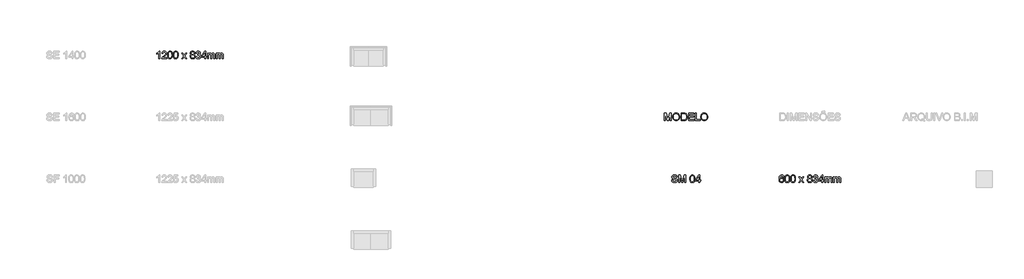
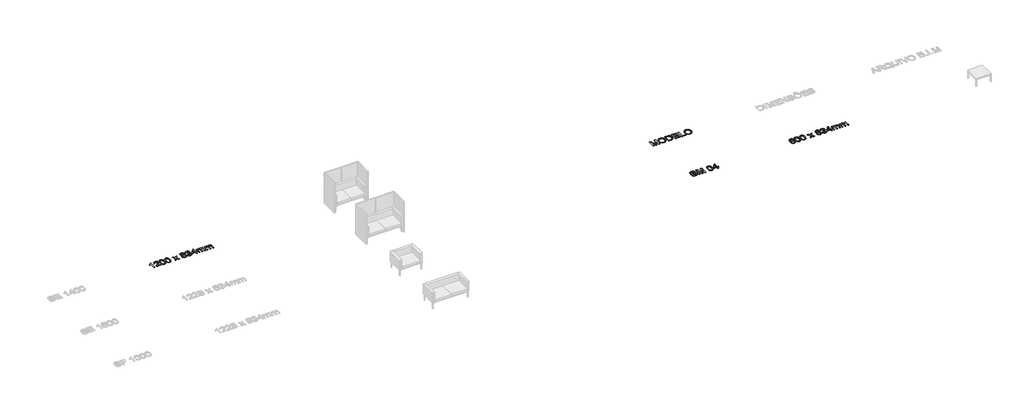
# One storey, part 59 of 67: 4 proxies.
"""IFC4 building model written with IfcOpenShell, lengths in millimetres."""

from ifc_helpers import new_model, si_unit, origin, origin_with_axes, place, context, project, spatial, polyline, outline, extrude, element, save

model = new_model("IFC4")

# Units and contexts
model_context = context("Model", 3, world=origin())
ifc_project = project(units=[si_unit("LENGTHUNIT", "METRE", prefix="MILLI")], contexts=[model_context])

# Site, building, storey
site = spatial("IfcSite", under=ifc_project)
building = spatial("IfcBuilding", under=site)
storey = spatial("IfcBuildingStorey", under=building, Name="Marelli - Linha COLAB - Planta Baixa", Elevation=0.0)

# Proxies
placement = place(None, origin())
element("IfcBuildingElementProxy", 1, Name="300mm Arial", ObjectType="300mm Arial", at=placement, inside=storey, context=model_context, shape_type="SweptSolid", body=[
    extrude(outline(polyline([(-317.6891758, -1280.5663201), (-355.3602921, -1280.5663201), (-355.3602921, -1045.7104543), (-391.0448457, -1071.1311002), (-430.7025247, -1090.1505994), (-430.7025247, -1054.5396222), (-401.1156153, -1038.4447849), (-375.4834373, -1019.2965271), (-355.2775187, -998.9342587), (-341.9693875, -979.1973896), (-317.6891758, -979.1973896), (-317.6891758, -1280.5663201)])), origin_with_axes(), (0.0, 0.0, 1.0), 10.0),
    extrude(outline(polyline([(-35.1558035, -1242.8952038), (-35.1558035, -1280.5663201), (-232.9291641, -1280.5663201), (-228.8824622, -1254.5938512), (-219.5934418, -1234.2959621), (-206.0002021, -1214.6050783), (-186.3369094, -1193.9944896), (-158.8377303, -1170.9374855), (-118.1867698, -1134.8298677), (-93.7961935, -1108.1768171), (-81.6009054, -1086.5453558), (-77.5358094, -1065.5025057), (-81.3709792, -1046.6393564), (-92.8764886, -1030.9583863), (-110.5624155, -1020.390976), (-132.9388378, -1016.8685059), (-156.4373003, -1020.3082026), (-174.6934443, -1030.6272925), (-186.4748652, -1047.0164354), (-190.5491583, -1068.6662908), (-228.2202746, -1063.9574013), (-219.0876041, -1027.5186897), (-210.5412455, -1012.9827524), (-199.341538, -1000.9024273), (-185.745999, -991.4064733), (-170.0121459, -984.623649), (-132.1294974, -979.1973896), (-111.9396737, -980.7057058), (-93.9709375, -985.2306543), (-78.2232888, -992.7722352), (-64.6967277, -1003.3304485), (-53.8327126, -1016.1235449), (-46.0727017, -1030.3697751), (-41.4166952, -1046.0691393), (-39.8646931, -1063.2216373), (-41.5385561, -1081.238658), (-46.5601454, -1098.942979), (-55.4720867, -1116.9508027), (-68.8170061, -1135.8783314), (-90.0897824, -1158.4754829), (-122.7852948, -1187.4921753), (-166.1217938, -1223.7285518), (-183.117942, -1242.8952038), (-35.1558035, -1242.8952038)])), origin_with_axes(), (0.0, 0.0, 1.0), 10.0),
    extrude(outline(polyline([(2.5153128, -1132.309876), (5.2836248, -1084.0713494), (13.5885608, -1045.6000897), (27.3473475, -1016.3074859), (46.4772112, -995.6049266), (71.1161078, -983.2992739), (101.4019931, -979.1973896), (124.615347, -981.6254108), (145.4006797, -988.9094743), (162.783104, -1000.7644716), (175.7877325, -1016.9052941), (185.6101818, -1037.1939862), (193.4460683, -1061.4925919), (198.5780221, -1092.3486943), (200.2886734, -1132.309876), (197.5479525, -1180.2724911), (189.3257899, -1218.6517803), (175.6497768, -1247.9719753), (156.5475042, -1268.757308), (131.8534252, -1281.1457342), (101.4019931, -1285.2752096), (80.6534486, -1283.4817849), (62.2593488, -1278.1015107), (46.2196938, -1269.1343871), (32.5344836, -1256.580414), (19.4010964, -1233.8866934), (10.0201055, -1205.6103636), (4.391511, -1171.7514244), (2.5153128, -1132.309876)]), holes=[polyline([(40.1864291, -1132.2362996), (44.601013, -1191.492892), (50.119243, -1211.7608907), (57.8447649, -1225.788691), (77.5632398, -1242.1502427), (101.4019931, -1247.6040933), (125.2407464, -1242.1318486), (144.9592213, -1225.7151146), (152.6847432, -1211.6643216), (158.2029731, -1191.4009215), (162.6175571, -1132.2362996), (158.3501259, -1074.3132795), (153.015837, -1054.1119594), (145.5478325, -1039.750766), (125.8661458, -1022.589071), (100.9605347, -1016.8685059), (77.3792988, -1021.9084893), (58.4333761, -1037.0284393), (50.4503368, -1052.6634241), (44.7481658, -1073.7430624), (40.1864291, -1132.2362996)])]), origin_with_axes(), (0.0, 0.0, 1.0), 10.0),
    extrude(outline(polyline([(233.2509002, -1132.309876), (236.0192122, -1084.0713494), (244.3241482, -1045.6000897), (258.0829348, -1016.3074859), (277.2127986, -995.6049266), (301.8516952, -983.2992739), (332.1375805, -979.1973896), (355.3509344, -981.6254108), (376.1362671, -988.9094743), (393.5186914, -1000.7644716), (406.5233199, -1016.9052941), (416.3457692, -1037.1939862), (424.1816557, -1061.4925919), (429.3136095, -1092.3486943), (431.0242608, -1132.309876), (428.2835399, -1180.2724911), (420.0613773, -1218.6517803), (406.3853641, -1247.9719753), (387.2830915, -1268.757308), (362.5890126, -1281.1457342), (332.1375805, -1285.2752096), (311.3890359, -1283.4817849), (292.9949362, -1278.1015107), (276.9552812, -1269.1343871), (263.270071, -1256.580414), (250.1366837, -1233.8866934), (240.7556929, -1205.6103636), (235.1270983, -1171.7514244), (233.2509002, -1132.309876)]), holes=[polyline([(270.9220165, -1132.2362996), (275.3366004, -1191.492892), (280.8548303, -1211.7608907), (288.5803522, -1225.788691), (308.2988272, -1242.1502427), (332.1375805, -1247.6040933), (355.9763338, -1242.1318486), (375.6948087, -1225.7151146), (383.4203306, -1211.6643216), (388.9385605, -1191.4009215), (393.3531445, -1132.2362996), (389.0857133, -1074.3132795), (383.7514244, -1054.1119594), (376.2834199, -1039.750766), (356.6017331, -1022.589071), (331.6961221, -1016.8685059), (308.1148862, -1021.9084893), (289.1689634, -1037.0284393), (281.1859241, -1052.6634241), (275.4837532, -1073.7430624), (270.9220165, -1132.2362996)])]), origin_with_axes(), (0.0, 0.0, 1.0), 10.0),
    extrude(outline(polyline([(567.5820574, -1280.5663201), (648.0746379, -1169.3188047), (572.2909469, -1059.2485118), (617.6140087, -1059.2485118), (654.181479, -1112.2235191), (671.2512036, -1137.2394947), (686.0400598, -1116.7852558), (727.6843017, -1059.2485118), (773.0073635, -1059.2485118), (693.3976997, -1169.3188047), (770.0643075, -1280.5663201), (724.7412457, -1280.5663201), (678.6088435, -1213.6853733), (670.1475576, -1201.4716911), (612.9051192, -1280.5663201), (567.5820574, -1280.5663201)])), origin_with_axes(), (0.0, 0.0, 1.0), 10.0),
    extrude(outline(polyline([(966.2189874, -1114.5779638), (946.049857, -1104.64515), (931.8955972, -1091.180669), (923.5354789, -1074.4604323), (920.7487727, -1054.7603514), (922.266286, -1039.3966796), (926.8188257, -1025.3113977), (934.4063918, -1012.5045058), (945.0289844, -1000.9760037), (958.1761672, -991.4478601), (973.337504, -984.6420431), (1009.7026392, -979.1973896), (1046.2885036, -984.7708018), (1061.6153872, -991.7375671), (1074.9649051, -1001.4910385), (1085.7806358, -1013.2448683), (1093.5061577, -1026.2127086), (1098.1414708, -1040.3945595), (1099.6865752, -1055.790421), (1096.9366573, -1074.8559054), (1088.6869035, -1091.2910335), (1074.8453435, -1104.6727411), (1055.3200066, -1114.5779638), (1078.5057693, -1126.5249316), (1095.3823559, -1144.1188881), (1105.6738547, -1166.5137045), (1109.1043543, -1192.8632524), (1107.4029001, -1211.6528253), (1102.2985374, -1228.8788997), (1093.7912662, -1244.5414757), (1081.8810866, -1258.6405532), (1067.193398, -1270.2932154), (1050.3535997, -1278.6165455), (1031.3616916, -1283.6105436), (1010.217674, -1285.2752096), (989.0736563, -1283.6036458), (970.0817483, -1278.5889543), (953.24195, -1270.2311353), (938.5542613, -1258.5301886), (926.6440817, -1244.3322428), (918.1368106, -1228.4834266), (913.0324479, -1210.9837399), (911.3309937, -1191.8331828), (914.899449, -1164.4627624), (925.6048151, -1141.9483843), (942.8952689, -1125.0626007), (966.2189874, -1114.5779638)]), holes=[polyline([(949.00211, -1190.5088076), (955.2928921, -1218.8725095), (964.0024983, -1231.0402065), (977.5497528, -1240.0993006), (993.7733488, -1245.7278951), (1010.5119796, -1247.6040933), (1036.1533546, -1243.6585589), (1055.393583, -1231.8219557), (1067.4233242, -1213.8969055), (1071.433238, -1191.68603), (1067.2945655, -1169.0980755), (1054.8785482, -1150.7775522), (1035.1968614, -1138.6374463), (1009.2611808, -1134.5907444), (983.9784907, -1138.582264), (964.9314004, -1150.556823), (952.9844326, -1168.5278584), (949.00211, -1190.5088076)]), polyline([(958.4198891, -1055.8639974), (961.7584182, -1072.3083226), (971.7740055, -1085.4417098), (988.1723454, -1094.0501485), (1010.6591324, -1096.9196281), (1032.6216875, -1094.0685426), (1048.7717071, -1085.5152862), (1058.7045209, -1072.8233574), (1062.0154589, -1057.5562546), (1058.5941563, -1041.7097376), (1048.3302487, -1028.6039416), (1031.9594999, -1019.8023648), (1010.217674, -1016.8685059), (988.3378923, -1019.7379855), (971.9947347, -1028.3464242), (961.8136005, -1040.9647766), (958.4198891, -1055.8639974)])]), origin_with_axes(), (0.0, 0.0, 1.0), 10.0),
    extrude(outline(polyline([(1142.066581, -1200.5151979), (1179.7376974, -1195.8063084), (1188.1713921, -1219.4795148), (1200.5230301, -1235.4639875), (1217.3996166, -1244.5690668), (1239.408157, -1247.6040933), (1265.233473, -1243.4286327), (1285.1726772, -1230.9022507), (1297.9197883, -1212.2138454), (1302.1688253, -1189.5523145), (1297.9565765, -1168.0404148), (1285.31983, -1150.5936112), (1266.1899662, -1139.0329195), (1242.4983657, -1135.1793556), (1216.0844385, -1139.2996339), (1220.2782932, -1101.6285176), (1226.3115579, -1102.069976), (1248.8811183, -1099.3660433), (1269.0594458, -1091.2542454), (1283.296479, -1077.5322469), (1288.0421567, -1057.997713), (1284.6024601, -1041.7281317), (1274.2833701, -1028.5303652), (1258.5380207, -1019.7839707), (1238.8195458, -1016.8685059), (1219.0642826, -1019.8115619), (1202.9142631, -1028.6407298), (1191.1236451, -1043.3560096), (1184.4465869, -1063.9574013), (1146.7754706, -1059.2485118), (1157.8671127, -1025.4217623), (1177.6039818, -1000.1666633), (1204.6065202, -984.4397081), (1237.4951706, -979.1973896), (1261.177574, -981.7817606), (1282.928597, -989.5348737), (1301.2675145, -1001.76695), (1314.7136014, -1017.7882109), (1322.9633551, -1036.24669), (1325.713273, -1055.790421), (1323.1013109, -1074.0005798), (1315.2654244, -1090.5184814), (1302.3159781, -1104.5899677), (1284.3633368, -1115.4608806), (1307.9445727, -1124.9890243), (1325.4189674, -1141.2126203), (1336.2346981, -1163.2487518), (1339.8399417, -1190.2145021), (1338.0373199, -1209.3259717), (1332.6294545, -1226.9291252), (1323.6163457, -1243.0239625), (1310.9979932, -1257.6104836), (1295.6251244, -1269.7138012), (1278.3484662, -1278.3590281), (1259.1680186, -1283.5461642), (1238.0837818, -1285.2752096), (1219.0274944, -1283.7990831), (1201.6634643, -1279.3707036), (1185.9916913, -1271.9900711), (1172.0121755, -1261.6571855), (1160.2905354, -1248.9790523), (1151.3923896, -1234.5626766), (1145.3177382, -1218.4080585), (1142.066581, -1200.5151979)])), origin_with_axes(), (0.0, 0.0, 1.0), 10.0),
    extrude(outline(polyline([(1495.2332964, -1280.5663201), (1495.2332964, -1209.932977), (1358.6754998, -1209.932977), (1358.6754998, -1172.2618607), (1504.6510755, -983.9062792), (1532.9044127, -983.9062792), (1532.9044127, -1172.2618607), (1570.575529, -1172.2618607), (1570.575529, -1209.932977), (1532.9044127, -1209.932977), (1532.9044127, -1280.5663201), (1495.2332964, -1280.5663201)]), holes=[polyline([(1495.2332964, -1172.2618607), (1495.2332964, -1055.8639974), (1405.0286312, -1172.2618607), (1495.2332964, -1172.2618607)])]), origin_with_axes(), (0.0, 0.0, 1.0), 10.0),
    extrude(outline(polyline([(1612.9555349, -1280.5663201), (1612.9555349, -1059.2485118), (1650.6266512, -1059.2485118), (1650.6266512, -1095.6688293), (1661.9574166, -1078.9393956), (1676.5255436, -1065.8335995), (1693.8343915, -1057.3631165), (1713.3873196, -1054.5396222), (1734.3381992, -1057.4182988), (1751.1320123, -1066.0543287), (1763.6767883, -1079.8774946), (1771.8805568, -1098.3175797), (1785.6117523, -1079.1647233), (1801.2743282, -1065.4841116), (1818.8682846, -1057.2757446), (1838.3936215, -1054.5396222), (1866.7113381, -1059.0921619), (1887.6530207, -1072.749781), (1900.5932699, -1095.8803614), (1904.9066862, -1128.8517853), (1904.9066862, -1280.5663201), (1867.2355699, -1280.5663201), (1867.2355699, -1145.038593), (1863.740691, -1113.5846825), (1858.8294664, -1104.9118644), (1851.0855504, -1098.0968505), (1841.1251453, -1093.6822665), (1829.5644536, -1092.2107385), (1809.1562, -1095.981529), (1792.5187367, -1107.2939003), (1781.4546857, -1126.9204048), (1777.7666687, -1155.6335945), (1777.7666687, -1280.5663201), (1740.0955524, -1280.5663201), (1740.0955524, -1140.8447383), (1737.9158516, -1119.5443708), (1731.3767491, -1104.3508444), (1719.8712397, -1095.245765), (1702.7923181, -1092.2107385), (1688.2793734, -1094.2340895), (1674.9068629, -1100.3041424), (1663.870403, -1110.2737445), (1656.3656103, -1123.9957429), (1652.061391, -1143.0336362), (1650.6266512, -1168.9509227), (1650.6266512, -1280.5663201), (1612.9555349, -1280.5663201)])), origin_with_axes(), (0.0, 0.0, 1.0), 10.0),
    extrude(outline(polyline([(1961.4133607, -1280.5663201), (1961.4133607, -1059.2485118), (1999.084477, -1059.2485118), (1999.084477, -1095.6688293), (2010.4152425, -1078.9393956), (2024.9833695, -1065.8335995), (2042.2922173, -1057.3631165), (2061.8451454, -1054.5396222), (2082.796025, -1057.4182988), (2099.5898381, -1066.0543287), (2112.1346141, -1079.8774946), (2120.3383826, -1098.3175797), (2134.0695781, -1079.1647233), (2149.732154, -1065.4841116), (2167.3261105, -1057.2757446), (2186.8514474, -1054.5396222), (2215.1691639, -1059.0921619), (2236.1108465, -1072.749781), (2249.0510957, -1095.8803614), (2253.3645121, -1128.8517853), (2253.3645121, -1280.5663201), (2215.6933958, -1280.5663201), (2215.6933958, -1145.038593), (2212.1985168, -1113.5846825), (2207.2872922, -1104.9118644), (2199.5433762, -1098.0968505), (2189.5829712, -1093.6822665), (2178.0222795, -1092.2107385), (2157.6140258, -1095.981529), (2140.9765626, -1107.2939003), (2129.9125115, -1126.9204048), (2126.2244945, -1155.6335945), (2126.2244945, -1280.5663201), (2088.5533782, -1280.5663201), (2088.5533782, -1140.8447383), (2086.3736774, -1119.5443708), (2079.834575, -1104.3508444), (2068.3290656, -1095.245765), (2051.2501439, -1092.2107385), (2036.7371992, -1094.2340895), (2023.3646887, -1100.3041424), (2012.3282288, -1110.2737445), (2004.8234361, -1123.9957429), (2000.5192168, -1143.0336362), (1999.084477, -1168.9509227), (1999.084477, -1280.5663201), (1961.4133607, -1280.5663201)])), origin_with_axes(), (0.0, 0.0, 1.0), 10.0),
])
element("IfcBuildingElementProxy", 2, Name="300mm Arial", ObjectType="300mm Arial", at=placement, inside=storey, context=model_context, shape_type="SweptSolid", body=[
    extrude(outline(polyline([(24849.4764028, -6059.2485118), (24811.8052865, -6063.9574013), (24805.7352336, -6045.2873901), (24797.5314651, -6032.5402789), (24780.4433464, -6020.7864492), (24759.7867724, -6016.8685059), (24742.2755894, -6019.1493743), (24725.794476, -6025.9919794), (24711.6402163, -6040.4037566), (24700.0795246, -6060.2417932), (24692.2712292, -6088.3019923), (24689.3741585, -6127.3802573), (24704.4849114, -6109.7495127), (24722.5939027, -6097.3242983), (24742.6894566, -6089.9574613), (24763.7598979, -6087.501849), (24781.8596921, -6089.1803106), (24798.5615347, -6094.2156954), (24813.8654257, -6102.6080034), (24827.7713651, -6114.3572346), (24839.3274583, -6128.7644133), (24847.5818105, -6145.1305635), (24852.5344219, -6163.4556854), (24854.1852923, -6183.7397789), (24851.0766895, -6210.7147262), (24841.7508809, -6235.7215049), (24826.9804188, -6256.9299019), (24807.5378553, -6272.5097044), (24784.3061073, -6282.0838333), (24758.1680916, -6285.2752096), (24735.711195, -6283.1598881), (24715.4294008, -6276.8139237), (24697.3227089, -6266.2373164), (24681.3911192, -6251.4300661), (24668.4025855, -6231.7667734), (24659.1250614, -6206.622039), (24653.558547, -6175.9958629), (24651.7030422, -6139.8882451), (24653.7631814, -6099.4074301), (24659.9435989, -6064.8587122), (24670.2442947, -6036.2420915), (24684.665269, -6013.557568), (24700.2956552, -5998.5249899), (24718.418442, -5987.7874342), (24739.0336293, -5981.3449008), (24762.1412171, -5979.1973896), (24795.1954144, -5984.5132844), (24821.664524, -6000.4609689), (24840.2057765, -6025.7896443), (24849.4764028, -6059.2485118)]), holes=[polyline([(24689.3741585, -6183.1511677), (24691.5538593, -6199.8438133), (24698.0929618, -6215.7823007), (24708.2465048, -6229.485905), (24721.2695275, -6239.4739012), (24736.9872857, -6245.5715453), (24755.2250356, -6247.6040933), (24780.0846615, -6243.3918445), (24799.6283924, -6230.7550979), (24812.2927301, -6210.8894702), (24816.514176, -6184.9905777), (24812.3479124, -6160.1309519), (24799.8491216, -6141.1758321), (24779.9742969, -6129.173682), (24753.6799313, -6125.1729653), (24728.8570936, -6129.173682), (24708.099352, -6141.1758321), (24694.0554569, -6159.6710994), (24689.3741585, -6183.1511677)])]), origin_with_axes(), (0.0, 0.0, 1.0), 10.0),
    extrude(outline(polyline([(24887.1475191, -6132.309876), (24889.9158311, -6084.0713494), (24898.2207672, -6045.6000897), (24911.9795538, -6016.3074859), (24931.1094175, -5995.6049266), (24955.7483142, -5983.2992739), (24986.0341994, -5979.1973896), (25009.2475533, -5981.6254108), (25030.032886, -5988.9094743), (25047.4153103, -6000.7644716), (25060.4199388, -6016.9052941), (25070.2423881, -6037.1939862), (25078.0782746, -6061.4925919), (25083.2102284, -6092.3486943), (25084.9208797, -6132.309876), (25082.1801588, -6180.2724911), (25073.9579963, -6218.6517803), (25060.2819831, -6247.9719753), (25041.1797105, -6268.757308), (25016.4856316, -6281.1457342), (24986.0341994, -6285.2752096), (24965.2856549, -6283.4817849), (24946.8915551, -6278.1015107), (24930.8519001, -6269.1343871), (24917.1666899, -6256.580414), (24904.0333027, -6233.8866934), (24894.6523118, -6205.6103636), (24889.0237173, -6171.7514244), (24887.1475191, -6132.309876)]), holes=[polyline([(24924.8186354, -6132.2362996), (24929.2332193, -6191.492892), (24934.7514493, -6211.7608907), (24942.4769712, -6225.788691), (24962.1954461, -6242.1502427), (24986.0341994, -6247.6040933), (25009.8729527, -6242.1318486), (25029.5914276, -6225.7151146), (25037.3169495, -6211.6643216), (25042.8351795, -6191.4009215), (25047.2497634, -6132.2362996), (25042.9823323, -6074.3132795), (25037.6480433, -6054.1119594), (25030.1800388, -6039.750766), (25010.4983521, -6022.589071), (24985.592741, -6016.8685059), (24962.0115051, -6021.9084893), (24943.0655824, -6037.0284393), (24935.0825431, -6052.6634241), (24929.3803721, -6073.7430624), (24924.8186354, -6132.2362996)])]), origin_with_axes(), (0.0, 0.0, 1.0), 10.0),
    extrude(outline(polyline([(25117.8831065, -6132.309876), (25120.6514185, -6084.0713494), (25128.9563545, -6045.6000897), (25142.7151412, -6016.3074859), (25161.8450049, -5995.6049266), (25186.4839015, -5983.2992739), (25216.7697868, -5979.1973896), (25239.9831407, -5981.6254108), (25260.7684734, -5988.9094743), (25278.1508977, -6000.7644716), (25291.1555262, -6016.9052941), (25300.9779755, -6037.1939862), (25308.813862, -6061.4925919), (25313.9458158, -6092.3486943), (25315.6564671, -6132.309876), (25312.9157462, -6180.2724911), (25304.6935836, -6218.6517803), (25291.0175705, -6247.9719753), (25271.9152979, -6268.757308), (25247.2212189, -6281.1457342), (25216.7697868, -6285.2752096), (25196.0212423, -6283.4817849), (25177.6271425, -6278.1015107), (25161.5874875, -6269.1343871), (25147.9022773, -6256.580414), (25134.7688901, -6233.8866934), (25125.3878992, -6205.6103636), (25119.7593047, -6171.7514244), (25117.8831065, -6132.309876)]), holes=[polyline([(25155.5542228, -6132.2362996), (25159.9688067, -6191.492892), (25165.4870367, -6211.7608907), (25173.2125586, -6225.788691), (25192.9310335, -6242.1502427), (25216.7697868, -6247.6040933), (25240.6085401, -6242.1318486), (25260.327015, -6225.7151146), (25268.0525369, -6211.6643216), (25273.5707668, -6191.4009215), (25277.9853508, -6132.2362996), (25273.7179196, -6074.3132795), (25268.3836307, -6054.1119594), (25260.9156262, -6039.750766), (25241.2339395, -6022.589071), (25216.3283284, -6016.8685059), (25192.7470925, -6021.9084893), (25173.8011697, -6037.0284393), (25165.8181304, -6052.6634241), (25160.1159595, -6073.7430624), (25155.5542228, -6132.2362996)])]), origin_with_axes(), (0.0, 0.0, 1.0), 10.0),
    extrude(outline(polyline([(25452.2142637, -6280.5663201), (25532.7068442, -6169.3188047), (25456.9231532, -6059.2485118), (25502.246215, -6059.2485118), (25538.8136854, -6112.2235191), (25555.8834099, -6137.2394947), (25570.6722661, -6116.7852558), (25612.316508, -6059.2485118), (25657.6395698, -6059.2485118), (25578.029906, -6169.3188047), (25654.6965138, -6280.5663201), (25609.373452, -6280.5663201), (25563.2410498, -6213.6853733), (25554.7797639, -6201.4716911), (25497.5373255, -6280.5663201), (25452.2142637, -6280.5663201)])), origin_with_axes(), (0.0, 0.0, 1.0), 10.0),
    extrude(outline(polyline([(25850.8511937, -6114.5779638), (25830.6820633, -6104.64515), (25816.5278035, -6091.180669), (25808.1676852, -6074.4604323), (25805.3809791, -6054.7603514), (25806.8984923, -6039.3966796), (25811.451032, -6025.3113977), (25819.0385981, -6012.5045058), (25829.6611907, -6000.9760037), (25842.8083735, -5991.4478601), (25857.9697103, -5984.6420431), (25894.3348455, -5979.1973896), (25930.9207099, -5984.7708018), (25946.2475935, -5991.7375671), (25959.5971114, -6001.4910385), (25970.4128421, -6013.2448683), (25978.138364, -6026.2127086), (25982.7736771, -6040.3945595), (25984.3187815, -6055.790421), (25981.5688636, -6074.8559054), (25973.3191099, -6091.2910335), (25959.4775498, -6104.6727411), (25939.9522129, -6114.5779638), (25963.1379756, -6126.5249316), (25980.0145622, -6144.1188881), (25990.306061, -6166.5137045), (25993.7365606, -6192.8632524), (25992.0351064, -6211.6528253), (25986.9307437, -6228.8788997), (25978.4234725, -6244.5414757), (25966.5132929, -6258.6405532), (25951.8256043, -6270.2932154), (25934.985806, -6278.6165455), (25915.993898, -6283.6105436), (25894.8498803, -6285.2752096), (25873.7058626, -6283.6036458), (25854.7139546, -6278.5889543), (25837.8741563, -6270.2311353), (25823.1864676, -6258.5301886), (25811.276288, -6244.3322428), (25802.7690169, -6228.4834266), (25797.6646542, -6210.9837399), (25795.9632, -6191.8331828), (25799.5316553, -6164.4627624), (25810.2370214, -6141.9483843), (25827.5274752, -6125.0626007), (25850.8511937, -6114.5779638)]), holes=[polyline([(25843.0520954, -6055.8639974), (25846.3906245, -6072.3083226), (25856.4062118, -6085.4417098), (25872.8045517, -6094.0501485), (25895.2913387, -6096.9196281), (25917.2538938, -6094.0685426), (25933.4039134, -6085.5152862), (25943.3367273, -6072.8233574), (25946.6476652, -6057.5562546), (25943.2263627, -6041.7097376), (25932.962455, -6028.6039416), (25916.5917062, -6019.8023648), (25894.8498803, -6016.8685059), (25872.9700986, -6019.7379855), (25856.626941, -6028.3464242), (25846.4458068, -6040.9647766), (25843.0520954, -6055.8639974)]), polyline([(25833.6343163, -6190.5088076), (25839.9250984, -6218.8725095), (25848.6347046, -6231.0402065), (25862.1819591, -6240.0993006), (25878.4055551, -6245.7278951), (25895.1441859, -6247.6040933), (25920.7855609, -6243.6585589), (25940.0257893, -6231.8219557), (25952.0555305, -6213.8969055), (25956.0654443, -6191.68603), (25951.9267718, -6169.0980755), (25939.5107545, -6150.7775522), (25919.8290678, -6138.6374463), (25893.8933871, -6134.5907444), (25868.610697, -6138.582264), (25849.5636067, -6150.556823), (25837.6166389, -6168.5278584), (25833.6343163, -6190.5088076)])]), origin_with_axes(), (0.0, 0.0, 1.0), 10.0),
    extrude(outline(polyline([(26026.6987874, -6200.5151979), (26064.3699037, -6195.8063084), (26072.8035984, -6219.4795148), (26085.1552364, -6235.4639875), (26102.0318229, -6244.5690668), (26124.0403633, -6247.6040933), (26149.8656793, -6243.4286327), (26169.8048835, -6230.9022507), (26182.5519946, -6212.2138454), (26186.8010317, -6189.5523145), (26182.5887828, -6168.0404148), (26169.9520363, -6150.5936112), (26150.8221725, -6139.0329195), (26127.130572, -6135.1793556), (26100.7166448, -6139.2996339), (26104.9104995, -6101.6285176), (26110.9437643, -6102.069976), (26133.5133247, -6099.3660433), (26153.6916521, -6091.2542454), (26167.9286853, -6077.5322469), (26172.674363, -6057.997713), (26169.2346664, -6041.7281317), (26158.9155764, -6028.5303652), (26143.170227, -6019.7839707), (26123.4517521, -6016.8685059), (26103.696489, -6019.8115619), (26087.5464694, -6028.6407298), (26075.7558514, -6043.3560096), (26069.0787932, -6063.9574013), (26031.4076769, -6059.2485118), (26042.4993191, -6025.4217623), (26062.2361881, -6000.1666633), (26089.2387265, -5984.4397081), (26122.1273769, -5979.1973896), (26145.8097803, -5981.7817606), (26167.5608033, -5989.5348737), (26185.8997208, -6001.76695), (26199.3458077, -6017.7882109), (26207.5955614, -6036.24669), (26210.3454794, -6055.790421), (26207.7335172, -6074.0005798), (26199.8976307, -6090.5184814), (26186.9481845, -6104.5899677), (26168.9955431, -6115.4608806), (26192.576779, -6124.9890243), (26210.0511738, -6141.2126203), (26220.8669044, -6163.2487518), (26224.472148, -6190.2145021), (26222.6695262, -6209.3259717), (26217.2616609, -6226.9291252), (26208.248552, -6243.0239625), (26195.6301995, -6257.6104836), (26180.2573307, -6269.7138012), (26162.9806725, -6278.3590281), (26143.800225, -6283.5461642), (26122.7159881, -6285.2752096), (26103.6597008, -6283.7990831), (26086.2956706, -6279.3707036), (26070.6238976, -6271.9900711), (26056.6443818, -6261.6571855), (26044.9227417, -6248.9790523), (26036.0245959, -6234.5626766), (26029.9499445, -6218.4080585), (26026.6987874, -6200.5151979)])), origin_with_axes(), (0.0, 0.0, 1.0), 10.0),
    extrude(outline(polyline([(26379.8655027, -6280.5663201), (26379.8655027, -6209.932977), (26243.3077061, -6209.932977), (26243.3077061, -6172.2618607), (26389.2832818, -5983.9062792), (26417.536619, -5983.9062792), (26417.536619, -6172.2618607), (26455.2077353, -6172.2618607), (26455.2077353, -6209.932977), (26417.536619, -6209.932977), (26417.536619, -6280.5663201), (26379.8655027, -6280.5663201)]), holes=[polyline([(26379.8655027, -6172.2618607), (26379.8655027, -6055.8639974), (26289.6608375, -6172.2618607), (26379.8655027, -6172.2618607)])]), origin_with_axes(), (0.0, 0.0, 1.0), 10.0),
    extrude(outline(polyline([(26497.5877412, -6280.5663201), (26497.5877412, -6059.2485118), (26535.2588575, -6059.2485118), (26535.2588575, -6095.6688293), (26546.5896229, -6078.9393956), (26561.15775, -6065.8335995), (26578.4665978, -6057.3631165), (26598.0195259, -6054.5396222), (26618.9704055, -6057.4182988), (26635.7642186, -6066.0543287), (26648.3089946, -6079.8774946), (26656.5127631, -6098.3175797), (26670.2439586, -6079.1647233), (26685.9065345, -6065.4841116), (26703.5004909, -6057.2757446), (26723.0258278, -6054.5396222), (26751.3435444, -6059.0921619), (26772.285227, -6072.749781), (26785.2254762, -6095.8803614), (26789.5388926, -6128.8517853), (26789.5388926, -6280.5663201), (26751.8677763, -6280.5663201), (26751.8677763, -6145.038593), (26748.3728973, -6113.5846825), (26743.4616727, -6104.9118644), (26735.7177567, -6098.0968505), (26725.7573516, -6093.6822665), (26714.1966599, -6092.2107385), (26693.7884063, -6095.981529), (26677.150943, -6107.2939003), (26666.086892, -6126.9204048), (26662.398875, -6155.6335945), (26662.398875, -6280.5663201), (26624.7277587, -6280.5663201), (26624.7277587, -6140.8447383), (26622.5480579, -6119.5443708), (26616.0089554, -6104.3508444), (26604.503446, -6095.245765), (26587.4245244, -6092.2107385), (26572.9115797, -6094.2340895), (26559.5390692, -6100.3041424), (26548.5026093, -6110.2737445), (26540.9978166, -6123.9957429), (26536.6935973, -6143.0336362), (26535.2588575, -6168.9509227), (26535.2588575, -6280.5663201), (26497.5877412, -6280.5663201)])), origin_with_axes(), (0.0, 0.0, 1.0), 10.0),
    extrude(outline(polyline([(26846.045567, -6280.5663201), (26846.045567, -6059.2485118), (26883.7166833, -6059.2485118), (26883.7166833, -6095.6688293), (26895.0474488, -6078.9393956), (26909.6155758, -6065.8335995), (26926.9244237, -6057.3631165), (26946.4773517, -6054.5396222), (26967.4282313, -6057.4182988), (26984.2220444, -6066.0543287), (26996.7668204, -6079.8774946), (27004.9705889, -6098.3175797), (27018.7017844, -6079.1647233), (27034.3643603, -6065.4841116), (27051.9583168, -6057.2757446), (27071.4836537, -6054.5396222), (27099.8013702, -6059.0921619), (27120.7430528, -6072.749781), (27133.683302, -6095.8803614), (27137.9967184, -6128.8517853), (27137.9967184, -6280.5663201), (27100.3256021, -6280.5663201), (27100.3256021, -6145.038593), (27096.8307231, -6113.5846825), (27091.9194985, -6104.9118644), (27084.1755825, -6098.0968505), (27074.2151775, -6093.6822665), (27062.6544858, -6092.2107385), (27042.2462321, -6095.981529), (27025.6087689, -6107.2939003), (27014.5447179, -6126.9204048), (27010.8567009, -6155.6335945), (27010.8567009, -6280.5663201), (26973.1855846, -6280.5663201), (26973.1855846, -6140.8447383), (26971.0058837, -6119.5443708), (26964.4667813, -6104.3508444), (26952.9612719, -6095.245765), (26935.8823502, -6092.2107385), (26921.3694055, -6094.2340895), (26907.996895, -6100.3041424), (26896.9604352, -6110.2737445), (26889.4556424, -6123.9957429), (26885.1514231, -6143.0336362), (26883.7166833, -6168.9509227), (26883.7166833, -6280.5663201), (26846.045567, -6280.5663201)])), origin_with_axes(), (0.0, 0.0, 1.0), 10.0),
])
element("IfcBuildingElementProxy", 3, Name="300mm Arial", ObjectType="300mm Arial", at=placement, inside=storey, context=model_context, shape_type="SweptSolid", body=[
    extrude(outline(polyline([(20033.1230948, -3780.5663201), (20033.1230948, -3479.1973896), (20097.9439023, -3479.1973896), (20159.6009247, -3691.6124536), (20172.0353362, -3735.9790223), (20185.4998172, -3687.9336337), (20246.12677, -3479.1973896), (20310.9475775, -3479.1973896), (20310.9475775, -3780.5663201), (20273.2764612, -3780.5663201), (20273.2764612, -3516.8685059), (20197.5663466, -3780.5663201), (20146.5043257, -3780.5663201), (20070.7942111, -3516.8685059), (20070.7942111, -3780.5663201), (20033.1230948, -3780.5663201)])), origin_with_axes(), (0.0, 0.0, 1.0), 10.0),
    extrude(outline(polyline([(20362.7453625, -3633.8549804), (20365.2561571, -3598.5061192), (20372.7885409, -3567.213157), (20385.342514, -3539.9760937), (20402.9180763, -3516.7949295), (20424.4621657, -3498.2858666), (20448.9217198, -3485.0651074), (20476.2967388, -3477.1326519), (20506.5872226, -3474.4885001), (20546.116143, -3479.454907), (20581.5615732, -3494.3541278), (20610.9921328, -3518.1376988), (20632.4764413, -3549.7571563), (20645.6098286, -3587.68579), (20649.9876243, -3630.3968896), (20645.3799023, -3673.6782064), (20631.5567363, -3712.140269), (20609.2814815, -3743.8149088), (20579.317493, -3766.733957), (20544.1755654, -3780.6398965), (20506.3664934, -3785.2752096), (20466.2305677, -3780.1524528), (20430.5828024, -3764.7841825), (20401.2258192, -3740.5591531), (20379.9622398, -3708.8661192), (20367.0495818, -3672.3998164), (20362.7453625, -3633.8549804)]), holes=[polyline([(20400.4164788, -3634.2228624), (20402.2995747, -3659.1974513), (20407.9488626, -3681.3669401), (20417.3643424, -3700.7313286), (20430.5460142, -3717.2906169), (20446.5695743, -3730.5527628), (20464.5107194, -3740.0257242), (20484.3694493, -3745.709501), (20506.1457642, -3747.6040933), (20528.2945596, -3745.6911069), (20548.3878143, -3739.9521478), (20566.4255284, -3730.3872159), (20582.4077018, -3716.9963113), (20595.4928045, -3700.0875351), (20604.8393064, -3679.9689885), (20610.4472076, -3656.6406715), (20612.316508, -3630.102584), (20609.1159346, -3596.7540812), (20599.5142146, -3567.9305269), (20583.7596681, -3544.358488), (20562.1006157, -3526.7645316), (20535.9717969, -3515.8108452), (20506.8079518, -3512.1596164), (20485.7880943, -3513.9185522), (20466.28575, -3519.1953595), (20448.300919, -3527.9900385), (20431.8336012, -3540.302589), (20418.0886101, -3556.7262208), (20408.2707594, -3577.8541437), (20402.3800489, -3603.6863575), (20400.4164788, -3634.2228624)])]), origin_with_axes(), (0.0, 0.0, 1.0), 10.0),
    extrude(outline(polyline([(20701.7854092, -3780.5663201), (20701.7854092, -3479.1973896), (20805.7488611, -3479.1973896), (20859.5332088, -3483.5383972), (20883.555903, -3491.9077126), (20903.826201, -3505.0962821), (20924.666716, -3528.0521186), (20939.5107545, -3556.5997614), (20948.3951047, -3590.1873876), (20951.3565547, -3628.2631741), (20949.3515979, -3660.6091985), (20943.3367273, -3689.0740679), (20934.1764656, -3713.3082943), (20922.7353355, -3732.9623899), (20909.5651601, -3748.477813), (20895.2177623, -3760.2960221), (20878.745846, -3769.0608107), (20859.202115, -3775.4159721), (20810.7520562, -3780.5663201), (20701.7854092, -3780.5663201)]), holes=[polyline([(20739.4565255, -3742.8952038), (20806.1167431, -3742.8952038), (20833.6894986, -3741.5340404), (20854.60359, -3737.4505502), (20870.3857276, -3730.8838566), (20882.5626217, -3722.0730828), (20895.6500236, -3705.7667134), (20905.4816699, -3684.6594839), (20911.6344963, -3658.6594239), (20913.6854384, -3627.6745629), (20909.6663276, -3586.6189322), (20897.6089953, -3556.3054558), (20879.7943096, -3535.4833349), (20858.5031392, -3522.9017706), (20836.8348896, -3518.3768221), (20805.0866735, -3516.8685059), (20739.4565255, -3516.8685059), (20739.4565255, -3742.8952038)])]), origin_with_axes(), (0.0, 0.0, 1.0), 10.0),
    extrude(outline(polyline([(21003.1543397, -3780.5663201), (21003.1543397, -3479.1973896), (21219.7632584, -3479.1973896), (21219.7632584, -3516.8685059), (21040.825456, -3516.8685059), (21040.825456, -3606.3374072), (21210.3454794, -3606.3374072), (21210.3454794, -3644.0085235), (21040.825456, -3644.0085235), (21040.825456, -3742.8952038), (21224.472148, -3742.8952038), (21224.472148, -3780.5663201), (21003.1543397, -3780.5663201)])), origin_with_axes(), (0.0, 0.0, 1.0), 10.0),
    extrude(outline(polyline([(21280.9788224, -3780.5663201), (21280.9788224, -3479.1973896), (21318.6499387, -3479.1973896), (21318.6499387, -3742.8952038), (21469.334404, -3742.8952038), (21469.334404, -3780.5663201), (21280.9788224, -3780.5663201)])), origin_with_axes(), (0.0, 0.0, 1.0), 10.0),
    extrude(outline(polyline([(21497.5877412, -3633.8549804), (21500.0985358, -3598.5061192), (21507.6309197, -3567.213157), (21520.1848927, -3539.9760937), (21537.7604551, -3516.7949295), (21559.3045444, -3498.2858666), (21583.7640986, -3485.0651074), (21611.1391175, -3477.1326519), (21641.4296013, -3474.4885001), (21680.9585217, -3479.454907), (21716.4039519, -3494.3541278), (21745.8345115, -3518.1376988), (21767.3188201, -3549.7571563), (21780.4522073, -3587.68579), (21784.830003, -3630.3968896), (21780.222281, -3673.6782064), (21766.3991151, -3712.140269), (21744.1238603, -3743.8149088), (21714.1598717, -3766.733957), (21679.0179442, -3780.6398965), (21641.2088721, -3785.2752096), (21601.0729464, -3780.1524528), (21565.4251811, -3764.7841825), (21536.0681979, -3740.5591531), (21514.8046186, -3708.8661192), (21501.8919605, -3672.3998164), (21497.5877412, -3633.8549804)]), holes=[polyline([(21535.2588575, -3634.2228624), (21537.1419535, -3659.1974513), (21542.7912413, -3681.3669401), (21552.2067212, -3700.7313286), (21565.3883929, -3717.2906169), (21581.4119531, -3730.5527628), (21599.3530981, -3740.0257242), (21619.2118281, -3745.709501), (21640.9881429, -3747.6040933), (21663.1369383, -3745.6911069), (21683.230193, -3739.9521478), (21701.2679071, -3730.3872159), (21717.2500805, -3716.9963113), (21730.3351832, -3700.0875351), (21739.6816852, -3679.9689885), (21745.2895863, -3656.6406715), (21747.1588867, -3630.102584), (21743.9583134, -3596.7540812), (21734.3565933, -3567.9305269), (21718.6020468, -3544.358488), (21696.9429944, -3526.7645316), (21670.8141757, -3515.8108452), (21641.6503305, -3512.1596164), (21620.630473, -3513.9185522), (21601.1281287, -3519.1953595), (21583.1432977, -3527.9900385), (21566.6759799, -3540.302589), (21552.9309888, -3556.7262208), (21543.1131381, -3577.8541437), (21537.2224276, -3603.6863575), (21535.2588575, -3634.2228624)])]), origin_with_axes(), (0.0, 0.0, 1.0), 10.0),
])
element("IfcBuildingElementProxy", 4, Name="300mm Arial", ObjectType="300mm Arial", at=placement, inside=storey, context=model_context, shape_type="SweptSolid", body=[
    extrude(outline(polyline([(20320.3653566, -6176.9707502), (20358.0364729, -6176.9707502), (20362.3590864, -6197.8756446), (20370.1765788, -6214.6786547), (20382.3718669, -6228.0143771), (20399.8278676, -6238.517408), (20421.1650233, -6245.332422), (20445.0037766, -6247.6040933), (20465.9914444, -6245.884245), (20484.3671501, -6240.7247), (20499.2571738, -6232.5577197), (20509.7877959, -6221.8155654), (20516.0509869, -6209.4823216), (20518.1387172, -6196.5420724), (20516.5752187, -6183.932917), (20511.8847233, -6173.0344129), (20502.3565796, -6163.7361954), (20486.2801364, -6155.9279001), (20431.428931, -6141.5437141), (20395.4224807, -6132.0247675), (20372.3838707, -6122.9656733), (20353.631086, -6110.2921386), (20340.341349, -6094.9330653), (20332.422689, -6077.2195472), (20329.7831357, -6057.4826782), (20333.0480884, -6035.4189555), (20342.8429465, -6014.845155), (20358.9101927, -5997.4075484), (20380.9923094, -5984.7524077), (20407.4982072, -5977.054477), (20436.8367963, -5974.4885001), (20468.6218007, -5977.1740386), (20496.4336795, -5985.2306543), (20519.2791514, -5998.4928003), (20536.164935, -6016.7949295), (20546.851907, -6038.9966079), (20551.100944, -6063.9574013), (20513.4298277, -6063.9574013), (20506.5136462, -6041.4798114), (20492.092672, -6025.2562154), (20469.5598998, -6015.4337661), (20438.3083243, -6012.1596164), (20406.3209848, -6015.3969779), (20384.3768238, -6025.1090626), (20371.6848949, -6039.4012781), (20367.454252, -6056.3790322), (20370.4524903, -6070.8551887), (20379.447205, -6082.4986539), (20400.7107844, -6092.9097143), (20440.9570746, -6103.541504), (20482.4909519, -6113.6398648), (20507.6172922, -6122.4506385), (20529.0924036, -6136.1174547), (20544.0743979, -6152.9848441), (20552.8759746, -6172.868866), (20555.8098335, -6195.5855792), (20552.4345162, -6218.8081301), (20542.3085643, -6240.6511236), (20525.845845, -6259.4498935), (20503.4602256, -6273.539774), (20476.5404606, -6282.3413507), (20446.4753046, -6285.2752096), (20409.5675434, -6282.1114244), (20379.1896876, -6272.620069), (20354.9922494, -6256.764355), (20336.6257408, -6234.5074943), (20324.8351229, -6207.3945912), (20320.3653566, -6176.9707502)])), origin_with_axes(), (0.0, 0.0, 1.0), 10.0),
    extrude(outline(polyline([(20612.316508, -6280.5663201), (20612.316508, -5979.1973896), (20677.1373155, -5979.1973896), (20738.7943379, -6191.6124536), (20751.2287494, -6235.9790223), (20764.6932304, -6187.9336337), (20825.3201832, -5979.1973896), (20890.1409908, -5979.1973896), (20890.1409908, -6280.5663201), (20852.4698744, -6280.5663201), (20852.4698744, -6016.8685059), (20776.7597598, -6280.5663201), (20725.6977389, -6280.5663201), (20649.9876243, -6016.8685059), (20649.9876243, -6280.5663201), (20612.316508, -6280.5663201)])), origin_with_axes(), (0.0, 0.0, 1.0), 10.0),
    extrude(outline(polyline([(21059.6610141, -6132.309876), (21062.4293261, -6084.0713494), (21070.7342622, -6045.6000897), (21084.4930488, -6016.3074859), (21103.6229126, -5995.6049266), (21128.2618092, -5983.2992739), (21158.5476944, -5979.1973896), (21181.7610483, -5981.6254108), (21202.5463811, -5988.9094743), (21219.9288053, -6000.7644716), (21232.9334339, -6016.9052941), (21242.7558831, -6037.1939862), (21250.5917696, -6061.4925919), (21255.7237235, -6092.3486943), (21257.4343747, -6132.309876), (21254.6936539, -6180.2724911), (21246.4714913, -6218.6517803), (21232.7954781, -6247.9719753), (21213.6932055, -6268.757308), (21188.9991266, -6281.1457342), (21158.5476944, -6285.2752096), (21137.7991499, -6283.4817849), (21119.4050501, -6278.1015107), (21103.3653952, -6269.1343871), (21089.6801849, -6256.580414), (21076.5467977, -6233.8866934), (21067.1658068, -6205.6103636), (21061.5372123, -6171.7514244), (21059.6610141, -6132.309876)]), holes=[polyline([(21097.3321304, -6132.2362996), (21101.7467144, -6191.492892), (21107.2649443, -6211.7608907), (21114.9904662, -6225.788691), (21134.7089411, -6242.1502427), (21158.5476944, -6247.6040933), (21182.3864477, -6242.1318486), (21202.1049227, -6225.7151146), (21209.8304446, -6211.6643216), (21215.3486745, -6191.4009215), (21219.7632584, -6132.2362996), (21215.4958273, -6074.3132795), (21210.1615384, -6054.1119594), (21202.6935339, -6039.750766), (21183.0118471, -6022.589071), (21158.106236, -6016.8685059), (21134.5250001, -6021.9084893), (21115.5790774, -6037.0284393), (21107.5960381, -6052.6634241), (21101.8938672, -6073.7430624), (21097.3321304, -6132.2362996)])]), origin_with_axes(), (0.0, 0.0, 1.0), 10.0),
    extrude(outline(polyline([(21412.8277295, -6280.5663201), (21412.8277295, -6209.932977), (21276.2699329, -6209.932977), (21276.2699329, -6172.2618607), (21422.2455086, -5983.9062792), (21450.4988458, -5983.9062792), (21450.4988458, -6172.2618607), (21488.1699621, -6172.2618607), (21488.1699621, -6209.932977), (21450.4988458, -6209.932977), (21450.4988458, -6280.5663201), (21412.8277295, -6280.5663201)]), holes=[polyline([(21412.8277295, -6172.2618607), (21412.8277295, -6055.8639974), (21322.6230643, -6172.2618607), (21412.8277295, -6172.2618607)])]), origin_with_axes(), (0.0, 0.0, 1.0), 10.0),
])

save(model, "model.ifc")
